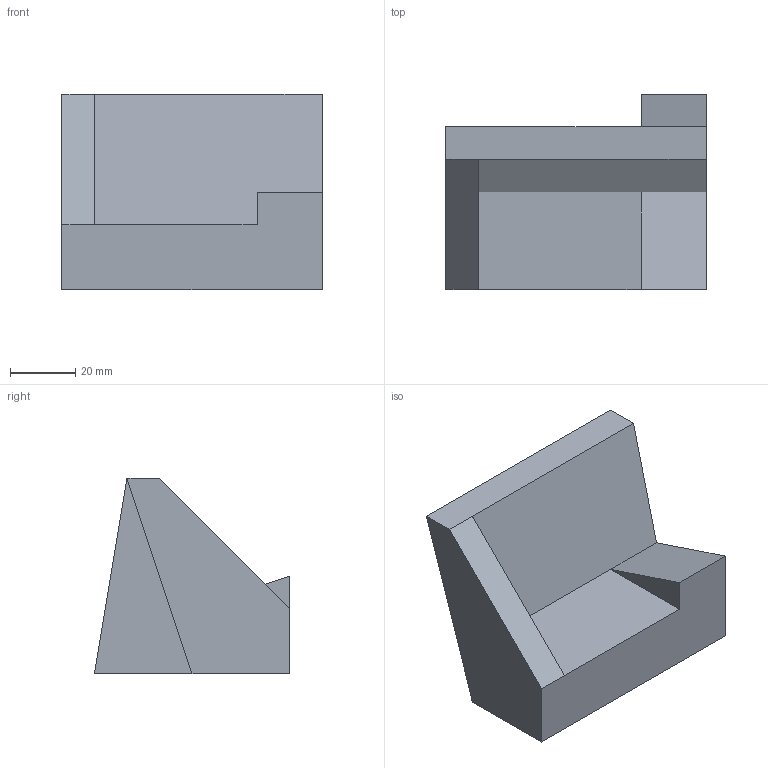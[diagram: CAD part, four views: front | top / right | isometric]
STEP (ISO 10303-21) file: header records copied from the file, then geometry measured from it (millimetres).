
FILE_DESCRIPTION(/* description */ (''),/* implementation_level */ '2;1');
FILE_NAME(/* time_stamp */ '2020-06-16T15:00:42+01:00',/* author */ ('DesignClass.co.uk'),/* originating_system */ 'Solidworks 2021',/* authorisation */ '');
FILE_SCHEMA (('AUTOMOTIVE_DESIGN { 1 0 10303 214 3 1 1 }'));
Length unit declared in the file: millimetre
Products named in the file (1): Task_10
Bounding box: 80 x 60 x 60 mm (x, y, z)
Volume: 107000 mm3; surface area: 21495.6 mm2
Topology: 1 solids, 1 shells, 14 faces, 32 edges, 20 vertices
Faces by surface type: plane 14
Entity records: 425 total; most frequent: CARTESIAN_POINT 67, ORIENTED_EDGE 64, DIRECTION 62, LINE 32, VECTOR 32, EDGE_CURVE 32, VERTEX_POINT 20, AXIS2_PLACEMENT_3D 15
